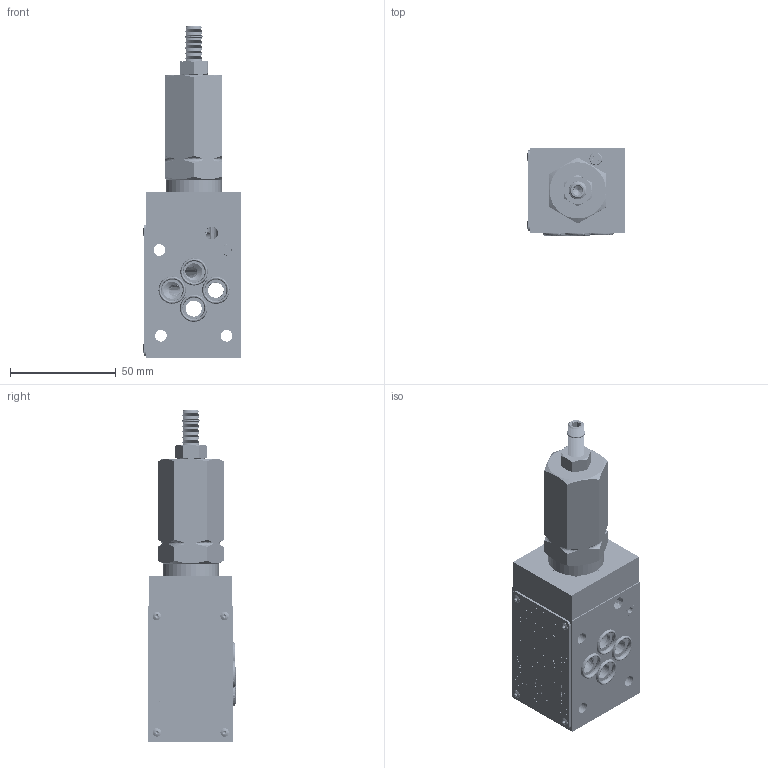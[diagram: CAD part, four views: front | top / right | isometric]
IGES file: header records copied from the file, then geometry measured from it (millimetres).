
Start section: SolidWorks IGES file using analytic representation for surfaces
Global section: file name: C:\Users\pc-te25\Desktop\ASSIEME 379-4-P.IGS; native system: SolidWorks 2018; preprocessor: SolidWorks 2018; author: pc-te25; date: 191014.105223; units: millimetre
Bounding box: 46.66 x 41.17 x 156.8 mm (x, y, z)
Surface area: 57284.1 mm2 (no closed solid volume)
Topology: 0 solids, 0 shells, 2566 faces, 26796 edges, 26773 vertices
Faces by surface type: bspline 1592, revolution 974
